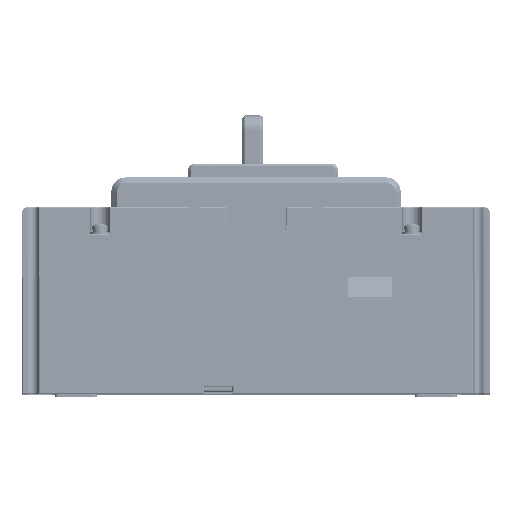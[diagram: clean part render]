
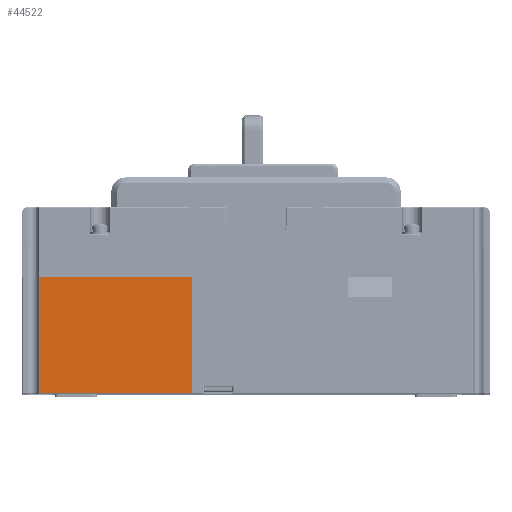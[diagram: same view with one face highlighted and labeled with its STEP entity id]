
A CAD part, top view. The second image highlights one B-rep face of the part: STEP entity #44522.
In plain terms, the highlighted planar face has unit normal (0, 0, 1).
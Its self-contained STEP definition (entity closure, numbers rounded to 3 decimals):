
#12187=DIRECTION('',(1.,0.,0.));
#12188=VECTOR('',#12187,53.651);
#12189=CARTESIAN_POINT('',(-76.151,-32.3,88.5));
#12190=LINE('',#12189,#12188);
#12191=DIRECTION('',(0.,-1.,0.));
#12192=VECTOR('',#12191,41.);
#12193=CARTESIAN_POINT('',(-76.151,8.7,88.5));
#12194=LINE('',#12193,#12192);
#12195=DIRECTION('',(-1.,0.,0.));
#12196=VECTOR('',#12195,53.651);
#12197=CARTESIAN_POINT('',(-22.5,8.7,88.5));
#12198=LINE('',#12197,#12196);
#12199=DIRECTION('',(0.,1.,0.));
#12200=VECTOR('',#12199,41.);
#12201=CARTESIAN_POINT('',(-22.5,-32.3,88.5));
#12202=LINE('',#12201,#12200);
#25107=CARTESIAN_POINT('',(-22.5,8.7,88.5));
#25108=VERTEX_POINT('',#25107);
#29740=CARTESIAN_POINT('',(-76.151,8.7,88.5));
#29742=VERTEX_POINT('',#29740);
#29831=CARTESIAN_POINT('',(-22.5,-32.3,88.5));
#29833=VERTEX_POINT('',#29831);
#29837=CARTESIAN_POINT('',(-76.151,-32.3,88.5));
#29838=VERTEX_POINT('',#29837);
#44509=CARTESIAN_POINT('',(0.,0.,88.5));
#44510=DIRECTION('',(0.,0.,1.));
#44511=DIRECTION('',(1.,0.,0.));
#44512=AXIS2_PLACEMENT_3D('',#44509,#44510,#44511);
#44513=PLANE('',#44512);
#44515=ORIENTED_EDGE('',*,*,#44514,.F.);
#44516=ORIENTED_EDGE('',*,*,#44504,.F.);
#44517=ORIENTED_EDGE('',*,*,#31585,.F.);
#44519=ORIENTED_EDGE('',*,*,#44518,.F.);
#44520=EDGE_LOOP('',(#44515,#44516,#44517,#44519));
#44521=FACE_OUTER_BOUND('',#44520,.F.);
#44522=ADVANCED_FACE('',(#44521),#44513,.T.);
#31585=EDGE_CURVE('',#25108,#29742,#12198,.T.);
#44504=EDGE_CURVE('',#29742,#29838,#12194,.T.);
#44514=EDGE_CURVE('',#29838,#29833,#12190,.T.);
#44518=EDGE_CURVE('',#29833,#25108,#12202,.T.);
